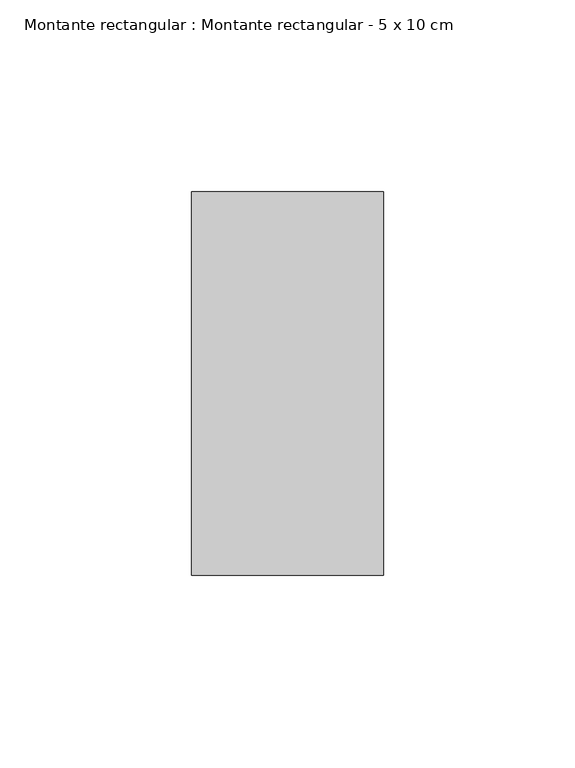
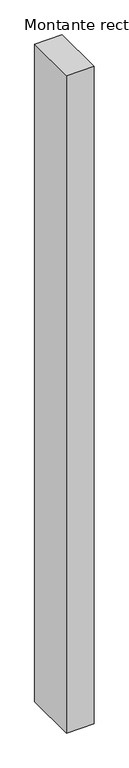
"""IFC4 building model written with IfcOpenShell, lengths in millimetres: member geometry, Montante rectangular : Montante rectangular - 5 x 10 cm."""

from ifc_helpers import new_model, si_unit, frame, origin, place, context, project, spatial, polyline, outline, extrude, source, transform, mapped, element, save


def montante_rectangular_montante_rectangular_5_x_10_cm_0642ad4a(model_context):
    return source(origin(), model_context, "Body", "SweptSolid", [
        extrude(outline(polyline([(-50.0, 50.0), (0.0, 50.0), (0.0, -50.0), (-50.0, -50.0), (-50.0, 50.0)])), frame((0.0, 0.0, -1265.0), z_axis=(0.0, 0.0, 1.0), x_axis=(1.0, 0.0, 0.0)), (0.0, 0.0, 1.0), 1265.0),
    ])


if __name__ == "__main__":
    model = new_model("IFC4")
    model_context = context("Model", 3, world=origin())
    ifc_project = project(units=[si_unit("LENGTHUNIT", "METRE", prefix="MILLI")], contexts=[model_context])
    site = spatial("IfcSite", under=ifc_project)
    building = spatial("IfcBuilding", under=site)
    placement = place(None, origin())
    montante_rectangular_montante_rectangular_5_x_10_cm_shape = montante_rectangular_montante_rectangular_5_x_10_cm_0642ad4a(model_context)
    element("IfcMember", 1, ObjectType="Montante rectangular : Montante rectangular - 5 x 10 cm", at=placement, inside=building, context=model_context, shape_type="MappedRepresentation", body=[
        mapped(montante_rectangular_montante_rectangular_5_x_10_cm_shape, transform((0.0, 0.0, 0.0), x_axis=(1.0, 0.0, 0.0), y_axis=(0.0, 1.0, 0.0), z_axis=(0.0, 0.0, 1.0))),
    ])
    save(model, "model.ifc")
